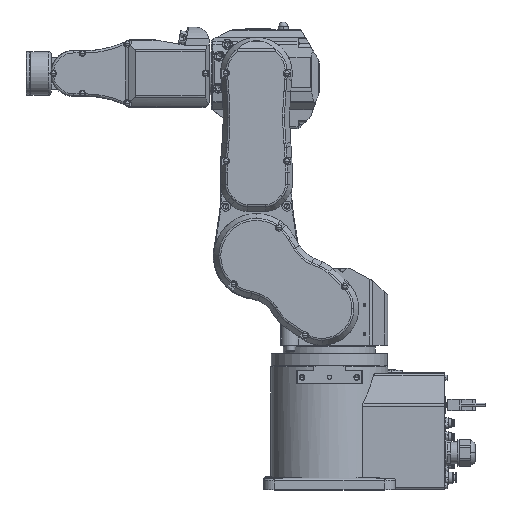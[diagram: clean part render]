
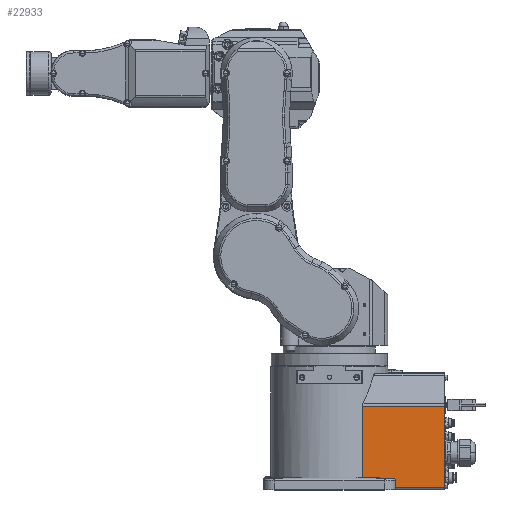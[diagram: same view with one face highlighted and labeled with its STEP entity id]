
A CAD part, top view. The second image highlights one B-rep face of the part: STEP entity #22933.
In plain terms, the highlighted planar face has unit normal (0, 0, 1).
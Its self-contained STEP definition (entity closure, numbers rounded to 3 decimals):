
#14681 = VERTEX_POINT( '', #40178 );
#16301 = VERTEX_POINT( '', #41954 );
#16815 = EDGE_CURVE( '', #30107, #34097, #42526, .T. );
#17707 = EDGE_CURVE( '', #34447, #23275, #43519, .T. );
#17813 = VERTEX_POINT( '', #43631 );
#18705 = EDGE_CURVE( '', #17813, #34447, #44611, .T. );
#21195 = EDGE_CURVE( '', #23275, #26209, #47385, .T. );
#21663 = EDGE_CURVE( '', #30107, #16301, #47890, .T. );
#22933 = ADVANCED_FACE( '', ( #49335 ), #49336, .T. );
#23275 = VERTEX_POINT( '', #49722 );
#25237 = EDGE_CURVE( '', #16301, #34571, #51874, .T. );
#25707 = EDGE_CURVE( '', #34571, #14681, #52385, .T. );
#26209 = VERTEX_POINT( '', #52955 );
#30107 = VERTEX_POINT( '', #57316 );
#32643 = EDGE_CURVE( '', #34097, #26209, #60115, .T. );
#33425 = EDGE_CURVE( '', #14681, #17813, #60993, .T. );
#34097 = VERTEX_POINT( '', #61732 );
#34447 = VERTEX_POINT( '', #62116 );
#34571 = VERTEX_POINT( '', #62259 );
#40178 = CARTESIAN_POINT( '', ( 68.675, 15., 66. ) );
#41954 = CARTESIAN_POINT( '', ( 90., 12.771, 66. ) );
#42526 = LINE( '', #72994, #72995 );
#43519 = LINE( '', #74608, #74609 );
#43631 = CARTESIAN_POINT( '', ( 68.675, 16.272, 66. ) );
#44611 = LINE( '', #76225, #76226 );
#47385 = LINE( '', #80452, #80453 );
#47890 = LINE( '', #81294, #81295 );
#49335 = FACE_OUTER_BOUND( '', #83278, .T. );
#49336 = PLANE( '', #83279 );
#49722 = CARTESIAN_POINT( '', ( 45.211, 114.378, 66. ) );
#51874 = ELLIPSE( '', #87085, 3.501, 3.5 );
#52385 = LINE( '', #87850, #87851 );
#52955 = CARTESIAN_POINT( '', ( 157.5, 114.378, 66. ) );
#57316 = CARTESIAN_POINT( '', ( 90., 3.5, 66. ) );
#60115 = LINE( '', #99117, #99118 );
#60993 = LINE( '', #100404, #100405 );
#61732 = CARTESIAN_POINT( '', ( 157.5, 3.5, 66. ) );
#62116 = CARTESIAN_POINT( '', ( 45.211, 16.272, 66. ) );
#62259 = CARTESIAN_POINT( '', ( 89.199, 15., 66. ) );
#72994 = CARTESIAN_POINT( '', ( 0., 3.5, 66. ) );
#72995 = VECTOR( '', #113333, 1. );
#74608 = CARTESIAN_POINT( '', ( 45.211, 65.141, 66. ) );
#74609 = VECTOR( '', #114551, 1. );
#76225 = CARTESIAN_POINT( '', ( 45., 16.272, 66. ) );
#76226 = VECTOR( '', #115733, 1. );
#80452 = CARTESIAN_POINT( '', ( 0., 114.378, 66. ) );
#80453 = VECTOR( '', #119038, 1. );
#81294 = CARTESIAN_POINT( '', ( 90., 1.75, 66. ) );
#81295 = VECTOR( '', #119528, 1. );
#83278 = EDGE_LOOP( '', ( #121459, #121460, #121461, #121462, #121463, #121464, #121465, #121466, #121467 ) );
#83279 = AXIS2_PLACEMENT_3D( '', #121468, #121469, #121470 );
#87085 = AXIS2_PLACEMENT_3D( '', #124355, #124356, #124357 );
#87850 = CARTESIAN_POINT( '', ( 0., 15., 66. ) );
#87851 = VECTOR( '', #124910, 1. );
#99117 = CARTESIAN_POINT( '', ( 157.5, 114.378, 66. ) );
#99118 = VECTOR( '', #134099, 1. );
#100404 = CARTESIAN_POINT( '', ( 68.675, 15.662, 66. ) );
#100405 = VECTOR( '', #135216, 1. );
#113333 = DIRECTION( '', ( 1., 0., 0. ) );
#114551 = DIRECTION( '', ( 0., 1., 0. ) );
#115733 = DIRECTION( '', ( -1., 0., 0. ) );
#119038 = DIRECTION( '', ( 1., 0., 0. ) );
#119528 = DIRECTION( '', ( 0., 1., 0. ) );
#121459 = ORIENTED_EDGE( '', *, *, #17707, .F. );
#121460 = ORIENTED_EDGE( '', *, *, #18705, .F. );
#121461 = ORIENTED_EDGE( '', *, *, #33425, .F. );
#121462 = ORIENTED_EDGE( '', *, *, #25707, .F. );
#121463 = ORIENTED_EDGE( '', *, *, #25237, .F. );
#121464 = ORIENTED_EDGE( '', *, *, #21663, .F. );
#121465 = ORIENTED_EDGE( '', *, *, #16815, .T. );
#121466 = ORIENTED_EDGE( '', *, *, #32643, .T. );
#121467 = ORIENTED_EDGE( '', *, *, #21195, .F. );
#121468 = CARTESIAN_POINT( '', ( 0., 3.5, 66. ) );
#121469 = DIRECTION( '', ( 0., 0., 1. ) );
#121470 = DIRECTION( '', ( 0., -1., 0. ) );
#124355 = CARTESIAN_POINT( '', ( 86.5, 12.771, 66. ) );
#124356 = DIRECTION( '', ( 0., 0., 1. ) );
#124357 = DIRECTION( '', ( 0., 1., 0. ) );
#124910 = DIRECTION( '', ( -1., 0., 0. ) );
#134099 = DIRECTION( '', ( 0., 1., 0. ) );
#135216 = DIRECTION( '', ( 0., 1., 0. ) );
